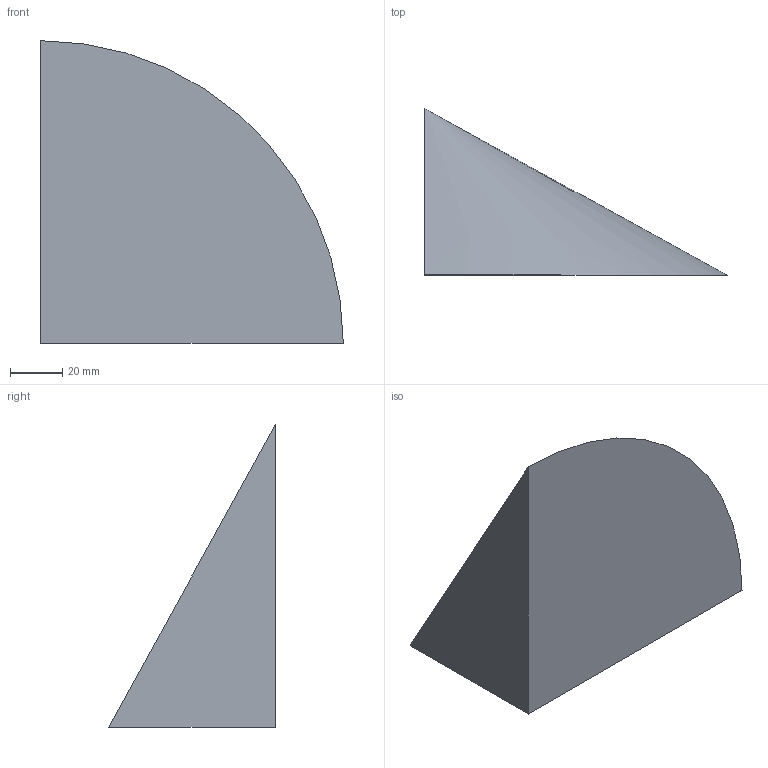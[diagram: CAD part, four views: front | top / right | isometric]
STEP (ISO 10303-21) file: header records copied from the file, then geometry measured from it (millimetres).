
FILE_DESCRIPTION(('CATIA V5 STEP Exchange'),'2;1');
FILE_NAME('C:\_Andres\UNIVERSIDAD\IQS\ASIGNATURAS\DAO\EXF\EXF-16172c\2inicio\Icart_Martori_Ej07_v16.stp','2017-03-05T21:18:13+00:00',('none'),('none'),'CATIA Version 5-6 Release 2014 SP1 HF18','CATIA V5 STEP AP203','none');
FILE_SCHEMA(('CONFIG_CONTROL_DESIGN'));
Length unit declared in the file: millimetre
Products named in the file (1): Icart_Martori_Ej07_v16
Bounding box: 116 x 64 x 116 mm (x, y, z)
Volume: 225457.4 mm3; surface area: 30062.4 mm2
Topology: 1 solids, 1 shells, 4 faces, 7 edges, 4 vertices
Faces by surface type: plane 3, cone 1
Entity records: 131 total; most frequent: CARTESIAN_POINT 15, DIRECTION 14, ORIENTED_EDGE 12, AXIS2_PLACEMENT_3D 6, EDGE_CURVE 6, VECTOR 5, LINE 5, ADVANCED_FACE 4
